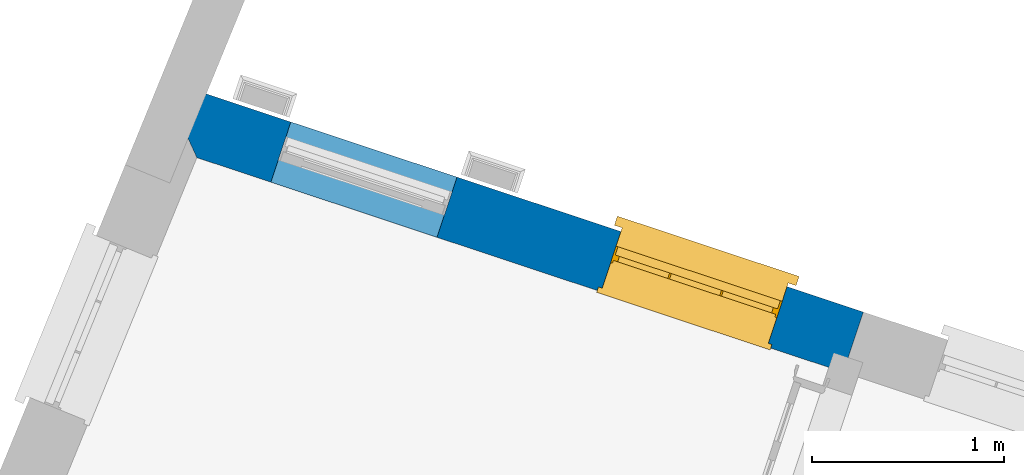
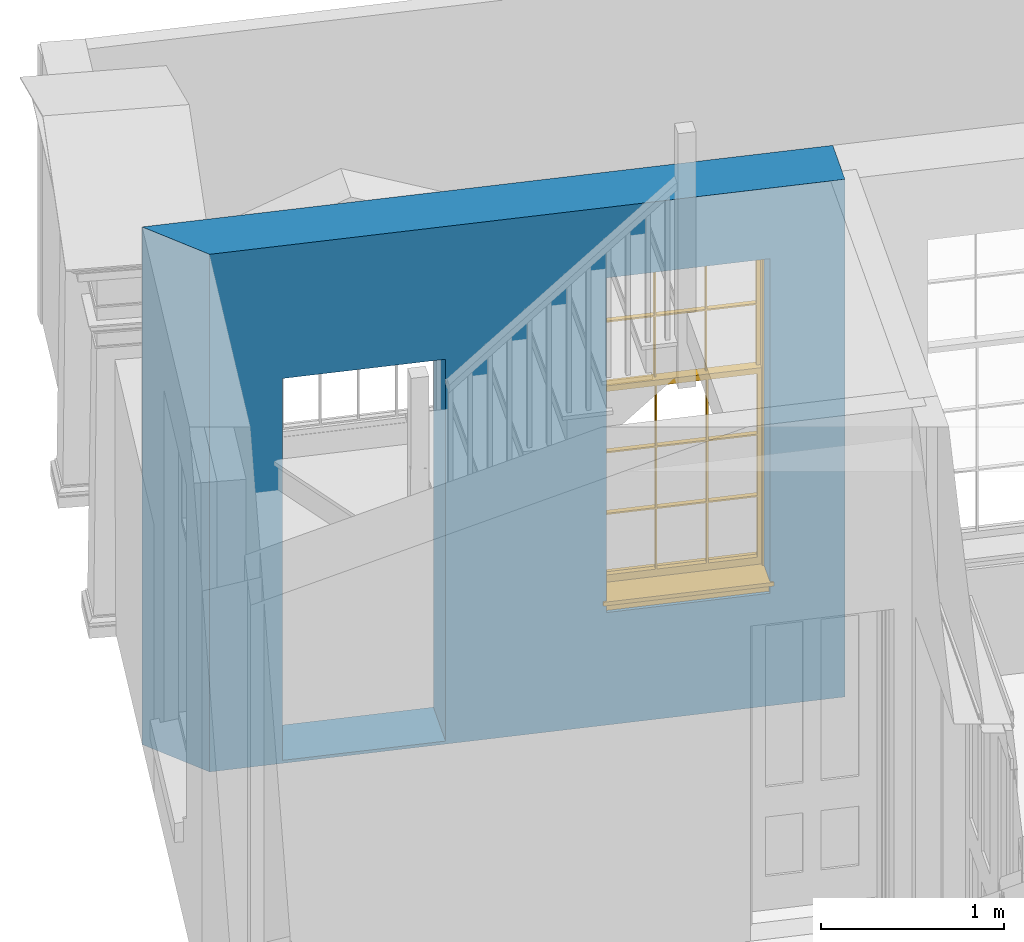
# One storey, part 4 of 6: 1 wall, 1 window, 2 openings.
"""IFC4 building model written with IfcOpenShell, lengths in metres."""

from ifc_helpers import new_model, si_unit, frame, origin, origin_with_axes, place, context, subcontext, project, spatial, polyline, outline, extrude, faceted_brep, source, transform, mapped, material, layer, layer_set, layer_usage, type_object, type_shapes, element, fill, save


model = new_model("IFC4")

# Units and contexts
model_context = context("Model", 3, world=origin_with_axes())
body_context = subcontext(model_context, "Body", "Model", "MODEL_VIEW")
ifc_project = project(units=[si_unit("PLANEANGLEUNIT", "RADIAN"), si_unit("MASSUNIT", "GRAM", prefix="KILO"), si_unit("FORCEUNIT", "NEWTON", prefix="KILO"), si_unit("LENGTHUNIT", "METRE"), si_unit("AREAUNIT", "SQUARE_METRE"), si_unit("VOLUMEUNIT", "CUBIC_METRE")], contexts=[model_context, model_context])

# Sites, building, storey
site_1_placement = place(None, origin_with_axes())
site_1 = spatial("IfcSite", under=ifc_project, at=site_1_placement, Name="Tamar")
site_2_placement = place(site_1_placement, origin_with_axes())
site_2 = spatial("IfcSite", under=site_1, at=site_2_placement, Name="Site plot-16", CompositionType="ELEMENT")
building_placement = place(None, origin_with_axes())
building = spatial("IfcBuilding", under=site_2, at=building_placement, Name="Building plot-16", CompositionType="ELEMENT")
storey_placement = place(None, frame((0.0, 0.0, 26.0), z_axis=(0.0, 0.0, 1.0), x_axis=(1.0, 0.0, 0.0)))
storey = spatial("IfcBuildingStorey", under=building, at=storey_placement, Name="plot-16 0", CompositionType="ELEMENT", Elevation=26.0)

# Wall, openings, window
ifc_material = material(Name="Masonry")
ifc_layer = layer(ifc_material, 0.33, ventilated=False)
ifc_layer_set = layer_set([ifc_layer], Name="exterior_0.08_0.25")
ifc_layer_usage = layer_usage(ifc_layer_set, "AXIS2", "POSITIVE", -0.25)
wall_type = type_object("IfcWallType", Name="exterior_0.08_0.25", PredefinedType="SOLIDWALL", material=ifc_layer_set)
wall_placement = place(storey_placement, frame((258.011095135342, 298.55601138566, 0.0), z_axis=(0.0, 0.0, 1.0), x_axis=(-0.949078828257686, 0.3150386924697, 0.0)))
wall = element("IfcWall", 1, at=wall_placement, inside=storey, type_object=wall_type, material=ifc_layer_usage, Name="exterior", context=body_context, shape_type="SweptSolid", body=[
    extrude(outline(polyline([(-1.66218014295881e-14, 0.0799999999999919), (1.81841538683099e-16, -0.249999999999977), (3.84975148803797, -0.249999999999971), (3.54152088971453, 0.079999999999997), (-1.66218014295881e-14, 0.0799999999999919)])), origin_with_axes(), (0.0, 0.0, 1.0), 3.45),
])
opening_1_placement = place(wall_placement, frame((0.418121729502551, 0.0, 0.75)))
opening_1 = element("IfcOpeningElement", 2, at=opening_1_placement, cuts=wall, Name="My Opening", ObjectType="Opening", context=body_context, shape_type="SweptSolid", body=[
    extrude(outline(polyline([(0.0, -0.270000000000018), (0.909999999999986, -0.270000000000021), (0.909999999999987, 1.10000000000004), (1.66533453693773e-15, 1.10000000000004), (0.0, -0.270000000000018)])), origin_with_axes(), (0.0, 0.0, 1.0), 2.23),
])
opening_2_placement = place(wall_placement, frame((2.226243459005, 0.0, 0.0199999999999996)))
element("IfcOpeningElement", 3, at=opening_2_placement, cuts=wall, Name="My Opening", ObjectType="Opening", context=body_context, shape_type="SweptSolid", body=[
    extrude(outline(polyline([(0.0, -0.270000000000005), (0.909999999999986, -0.270000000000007), (0.90999999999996, 1.10000000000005), (-2.57571741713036e-14, 1.10000000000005), (0.0, -0.270000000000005)])), origin_with_axes(), (0.0, 0.0, 1.0), 2.545),
])
window_type = type_object("IfcWindowType", Name="sash_big_taller", PartitioningType="DOUBLE_PANEL_HORIZONTAL", PredefinedType="NOTDEFINED")
shared_shape = source(origin(), body_context, "Body", "Brep", [
    faceted_brep([(0.033125, 0.145, 1.385209), (0.01, 0.145, 1.385209), (0.033125, 0.145, 1.786042), (0.876875, 0.145, 1.385209), (0.876875, 0.145, 1.786042), (0.9, 0.145, 1.385209), (0.876875, 0.145, 1.796042), (0.876875, 0.145, 2.196875), (0.9, 0.145, 2.22), (0.033125, 0.145, 2.196875), (0.033125, 0.145, 1.796042), (0.01, 0.145, 2.22), (0.876875, 0.115, 1.786042), (0.876875, 0.115, 1.385209), (0.9, 0.115, 1.347084), (0.033125, 0.115, 2.196875), (0.01, 0.115, 2.22), (0.033125, 0.115, 1.796042), (0.01, 0.115, 1.347084), (0.033125, 0.115, 1.385209), (0.033125, 0.115, 1.786042), (0.876875, 0.115, 2.196875), (0.876875, 0.115, 1.796042), (0.9, 0.115, 2.22), (0.033125, 0.145, 1.347084), (0.01, 0.145, 1.347084), (0.033125, 0.145, 0.94625), (0.876875, 0.145, 1.347084), (0.876875, 0.145, 0.94625), (0.9, 0.145, 1.347084), (0.876875, 0.145, 0.52625), (0.876875, 0.145, 0.125417), (0.9, 0.145, 0.077167), (0.033125, 0.145, 0.125417), (0.033125, 0.145, 0.52625), (0.01, 0.145, 0.077167), (-0.0425, 0.0, 0.01), (-0.0425, -0.05, 0.001667), (0.0, 0.0, 0.01), (0.9525, 0.0, 0.01), (0.91, 0.0, 0.01), (0.9525, -0.05, 0.001667), (-0.02, 0.33, 0.077167), (0.0, 0.33, 0.077167), (-0.02, 0.36, 0.077167), (0.0, 0.19, 0.077167), (0.01, 0.19, 0.077167), (0.91, 0.19, 0.077167), (0.91, 0.33, 0.077167), (0.9, 0.19, 0.077167), (0.93, 0.33, 0.077167), (0.93, 0.36, 0.077167), (0.01, 0.175, 1.385209), (0.9, 0.175, 1.385209), (0.876875, 0.175, 0.125417), (0.876875, 0.175, 0.52625), (0.9, 0.175, 0.077167), (0.876875, 0.175, 0.94625), (0.876875, 0.175, 1.347084), (0.033125, 0.175, 0.125417), (0.01, 0.175, 0.077167), (0.033125, 0.175, 0.52625), (0.033125, 0.175, 1.347084), (0.033125, 0.175, 0.94625), (-0.02, 0.33, 0.052167), (-0.02, 0.36, 0.052167), (0.93, 0.36, 0.052167), (0.93, 0.33, 0.052167), (0.91, 0.33, 0.052167), (0.0, 0.33, 0.052167), (0.91, 0.1, 0.026667), (0.0, 0.1, 0.026667), (-0.0425, -0.05, -0.123333), (0.9525, -0.05, -0.123333), (-0.0425, 0.0, -0.123333), (0.9525, 0.0, -0.123333), (0.01, 0.19, 2.22), (0.9, 0.19, 2.22), (0.0, 0.19, 2.23), (0.91, 0.19, 2.23), (0.01, 0.1, 0.077167), (0.9, 0.1, 0.077167), (0.592292, 0.145, 0.125417), (0.592292, 0.175, 0.125417), (0.317708, 0.175, 0.125417), (0.317708, 0.145, 0.125417), (0.592292, 0.145, 0.53625), (0.317708, 0.145, 0.53625), (0.317708, 0.145, 0.52625), (0.592292, 0.145, 0.52625), (0.592292, 0.175, 0.53625), (0.317708, 0.175, 0.53625), (0.592292, 0.115, 1.796042), (0.592292, 0.145, 1.796042), (0.317708, 0.145, 1.796042), (0.317708, 0.115, 1.796042), (0.317708, 0.115, 1.786042), (0.592292, 0.115, 1.786042), (0.317708, 0.145, 1.786042), (0.592292, 0.145, 1.786042), (0.602292, 0.115, 1.786042), (0.592292, 0.115, 1.385209), (0.602292, 0.115, 1.385209), (0.602292, 0.145, 1.385209), (0.592292, 0.145, 1.385209), (0.602292, 0.145, 1.786042), (0.876875, 0.145, 0.53625), (0.876875, 0.175, 0.53625), (0.602292, 0.175, 0.53625), (0.602292, 0.145, 0.53625), (0.317708, 0.175, 0.52625), (0.307708, 0.175, 0.125417), (0.307708, 0.175, 0.52625), (0.602292, 0.175, 0.52625), (0.602292, 0.175, 0.125417), (0.592292, 0.175, 0.52625), (0.307708, 0.175, 0.53625), (0.033125, 0.175, 0.53625), (0.317708, 0.175, 1.347084), (0.317708, 0.175, 0.94625), (0.307708, 0.175, 0.94625), (0.307708, 0.175, 1.347084), (0.602292, 0.175, 1.347084), (0.602292, 0.175, 0.94625), (0.592292, 0.175, 0.94625), (0.592292, 0.175, 1.347084), (0.307708, 0.145, 0.52625), (0.307708, 0.145, 0.125417), (0.307708, 0.145, 0.53625), (0.033125, 0.145, 0.53625), (0.307708, 0.145, 1.347084), (0.307708, 0.145, 0.94625), (0.592292, 0.145, 1.347084), (0.592292, 0.145, 0.94625), (0.317708, 0.145, 0.94625), (0.317708, 0.145, 1.347084), (0.602292, 0.145, 0.94625), (0.602292, 0.145, 1.347084), (0.602292, 0.145, 0.52625), (0.602292, 0.145, 0.125417), (0.307708, 0.115, 1.796042), (0.307708, 0.115, 1.786042), (0.307708, 0.115, 1.385209), (0.317708, 0.115, 1.385209), (0.317708, 0.115, 2.196875), (0.307708, 0.115, 2.196875), (0.602292, 0.115, 2.196875), (0.592292, 0.115, 2.196875), (0.602292, 0.115, 1.796042), (0.602292, 0.145, 1.796042), (0.307708, 0.145, 1.796042), (0.307708, 0.145, 2.196875), (0.317708, 0.145, 2.196875), (0.592292, 0.145, 2.196875), (0.602292, 0.145, 2.196875), (0.307708, 0.145, 1.786042), (0.317708, 0.145, 1.385209), (0.307708, 0.145, 1.385209), (0.876875, 0.175, 0.93625), (0.033125, 0.175, 0.93625), (0.033125, 0.145, 0.93625), (0.876875, 0.145, 0.93625), (0.91, 0.1, 2.23), (0.9, 0.1, 2.22), (0.01, 0.1, 2.22), (0.0, 0.1, 2.23), (0.91, 0.0, 0.0), (0.0, 0.0, 0.0), (0.91, 0.33, 0.0), (0.0, 0.33, 0.0), (0.317708, 0.145, 0.93625), (0.592292, 0.145, 0.93625), (0.317708, 0.175, 0.93625), (0.307708, 0.175, 0.93625), (0.602292, 0.175, 0.93625), (0.592292, 0.175, 0.93625), (0.307708, 0.145, 0.93625), (0.602292, 0.145, 0.93625)], [[[0, 1, 2]], [[3, 4, 5]], [[6, 7, 8]], [[9, 10, 11]], [[12, 13, 14]], [[15, 16, 17]], [[18, 19, 20]], [[21, 22, 23]], [[24, 25, 26]], [[27, 28, 29]], [[30, 31, 32]], [[33, 34, 35]], [[14, 27, 29]], [[25, 24, 18]], [[36, 37, 38]], [[39, 40, 41]], [[42, 43, 44]], [[45, 46, 43]], [[47, 48, 49]], [[50, 51, 48]], [[1, 0, 52]], [[5, 53, 3]], [[54, 55, 56]], [[57, 58, 53]], [[59, 60, 61]], [[62, 63, 52]], [[48, 43, 46, 49]], [[51, 44, 43, 48]], [[64, 42, 44, 65]], [[65, 44, 51, 66]], [[66, 51, 50, 67]], [[65, 66, 68, 69]], [[60, 56, 49, 46]], [[70, 71, 38, 40]], [[37, 41, 40, 38]], [[37, 72, 73, 41]], [[74, 75, 73, 72]], [[8, 11, 76, 77]], [[76, 78, 79, 77]], [[32, 35, 80, 81]], [[81, 80, 71, 70]], [[82, 83, 84, 85]], [[86, 87, 88, 89]], [[86, 90, 91, 87]], [[92, 93, 94, 95]], [[92, 95, 96, 97]], [[96, 98, 99, 97]], [[100, 97, 101, 102]], [[103, 104, 99, 105]], [[97, 99, 104, 101]], [[102, 103, 105, 100]], [[106, 107, 108, 109]], [[110, 84, 111, 112]], [[113, 114, 83, 115]], [[116, 112, 61, 117]], [[90, 115, 110, 91]], [[118, 119, 120, 121]], [[122, 123, 124, 125]], [[113, 108, 107, 55]], [[126, 112, 111, 127]], [[34, 61, 112, 126]], [[89, 115, 83, 82]], [[88, 110, 115, 89]], [[85, 84, 110, 88]], [[128, 116, 117, 129]], [[130, 121, 120, 131]], [[132, 125, 124, 133]], [[134, 119, 118, 135]], [[136, 123, 122, 137]], [[138, 113, 55, 30]], [[139, 114, 113, 138]], [[138, 30, 106, 109]], [[88, 126, 127, 85]], [[138, 89, 82, 139]], [[137, 132, 133, 136]], [[128, 129, 34, 126]], [[135, 130, 131, 134]], [[140, 17, 20, 141]], [[96, 141, 142, 143]], [[144, 145, 140, 95]], [[146, 147, 92, 148]], [[100, 12, 22, 148]], [[149, 6, 4, 105]], [[94, 150, 151, 152]], [[149, 93, 153, 154]], [[99, 98, 94, 93]], [[155, 2, 10, 150]], [[156, 157, 155, 98]], [[141, 155, 157, 142]], [[20, 2, 155, 141]], [[143, 156, 98, 96]], [[140, 150, 10, 17]], [[145, 151, 150, 140]], [[147, 153, 93, 92]], [[95, 94, 152, 144]], [[22, 6, 149, 148]], [[148, 149, 154, 146]], [[100, 105, 4, 12]], [[109, 86, 89, 138]], [[108, 113, 115, 90]], [[91, 110, 112, 116]], [[87, 128, 126, 88]], [[97, 100, 148, 92]], [[141, 96, 95, 140]], [[98, 155, 150, 94]], [[105, 99, 93, 149]], [[143, 101, 104, 156]], [[135, 118, 125, 132]], [[144, 152, 153, 147]], [[127, 111, 59, 33]], [[15, 9, 151, 145]], [[146, 154, 7, 21]], [[31, 54, 114, 139]], [[36, 74, 72, 37]], [[39, 41, 73, 75]], [[18, 14, 101, 143]], [[23, 16, 144, 147]], [[83, 56, 60, 84]], [[52, 53, 125, 118]], [[53, 52, 156, 104]], [[11, 8, 153, 152]], [[14, 18, 135, 132]], [[2, 1, 11, 10]], [[8, 5, 4, 6]], [[57, 53, 56, 158]], [[60, 52, 63, 159]], [[26, 25, 35, 160]], [[32, 29, 28, 161]], [[14, 23, 22, 12]], [[18, 20, 17, 16]], [[19, 0, 2, 20]], [[17, 10, 9, 15]], [[12, 4, 3, 13]], [[21, 7, 6, 22]], [[27, 58, 57, 28]], [[30, 55, 54, 31]], [[33, 59, 61, 34]], [[26, 63, 62, 24]], [[5, 8, 77, 53]], [[76, 11, 1, 52]], [[46, 45, 78, 76]], [[49, 77, 79, 47]], [[70, 162, 163, 81]], [[71, 80, 164, 165]], [[19, 142, 157, 0]], [[102, 13, 3, 103]], [[121, 130, 24, 62]], [[29, 32, 81, 14]], [[80, 35, 25, 18]], [[60, 46, 76, 52]], [[77, 49, 56, 53]], [[23, 14, 81, 163]], [[16, 164, 80, 18]], [[35, 85, 127]], [[127, 33, 35]], [[139, 82, 32]], [[32, 31, 139]], [[32, 82, 85, 35]], [[102, 101, 14]], [[14, 13, 102]], [[18, 143, 142]], [[142, 19, 18]], [[146, 21, 23]], [[23, 147, 146]], [[16, 15, 145]], [[145, 144, 16]], [[11, 152, 151]], [[151, 9, 11]], [[154, 153, 8]], [[8, 7, 154]], [[23, 163, 164, 16]], [[162, 165, 164, 163]], [[52, 118, 121]], [[121, 62, 52]], [[125, 53, 122]], [[58, 122, 53]], [[27, 137, 122, 58]], [[56, 83, 114]], [[114, 54, 56]], [[111, 84, 60]], [[60, 59, 111]], [[137, 27, 14]], [[14, 132, 137]], [[130, 135, 18]], [[18, 24, 130]], [[157, 156, 52]], [[52, 0, 157]], [[103, 3, 53]], [[53, 104, 103]], [[79, 78, 165, 162]], [[78, 45, 71, 165]], [[162, 70, 47, 79]], [[166, 75, 74, 167]], [[68, 66, 67]], [[48, 68, 67, 50]], [[69, 64, 65]], [[42, 64, 69, 43]], [[69, 68, 168, 169]], [[70, 68, 48, 47]], [[166, 168, 68, 70]], [[43, 69, 71, 45]], [[69, 169, 167, 71]], [[168, 166, 167, 169]], [[38, 167, 74, 36]], [[71, 167, 38]], [[39, 75, 166, 40]], [[40, 166, 70]], [[133, 134, 170, 171]], [[133, 124, 119, 134]], [[28, 57, 123, 136]], [[172, 91, 116, 173]], [[174, 108, 90, 175]], [[120, 173, 159, 63]], [[124, 175, 172, 119]], [[174, 123, 57, 158]], [[176, 173, 116, 128]], [[160, 159, 173, 176]], [[171, 175, 90, 86]], [[170, 172, 175, 171]], [[87, 91, 172, 170]], [[131, 120, 63, 26]], [[177, 174, 158, 161]], [[109, 108, 174, 177]], [[177, 161, 28, 136]], [[170, 176, 128, 87]], [[177, 171, 86, 109]], [[131, 26, 160, 176]], [[136, 133, 171, 177]], [[123, 174, 175, 124]], [[119, 172, 173, 120]], [[134, 131, 176, 170]], [[129, 117, 159, 160]], [[161, 158, 107, 106]], [[35, 34, 129]], [[35, 129, 160]], [[32, 106, 30]], [[32, 161, 106]], [[56, 55, 107]], [[56, 107, 158]], [[60, 117, 61]], [[60, 159, 117]]]),
])
type_shapes(window_type, [shared_shape])
window_placement = place(storey_placement, frame((257.699325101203, 298.943987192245, 0.75), z_axis=(0.0, 0.0, 1.0), x_axis=(-0.86366173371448, 0.286685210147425, 0.0)))
window = element("IfcWindow", 4, at=window_placement, inside=storey, type_object=window_type, Name="circulation outside window", OverallHeight=2.23, OverallWidth=0.91, context=body_context, shape_type="MappedRepresentation", body=[
    mapped(shared_shape, transform((0.0, 0.0, 0.0), scale=1.0)),
])
fill(opening_1, window)

save(model, "model.ifc")
